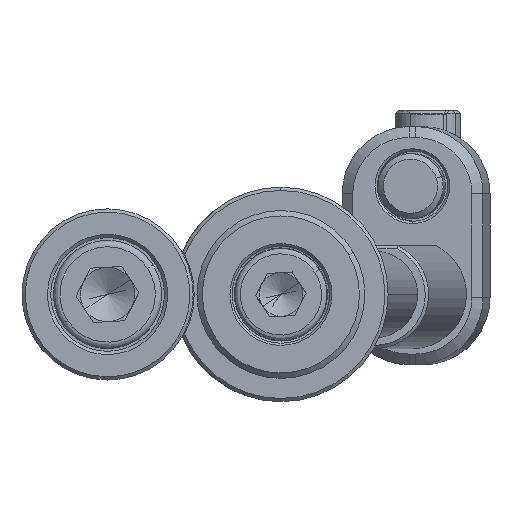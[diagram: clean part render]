
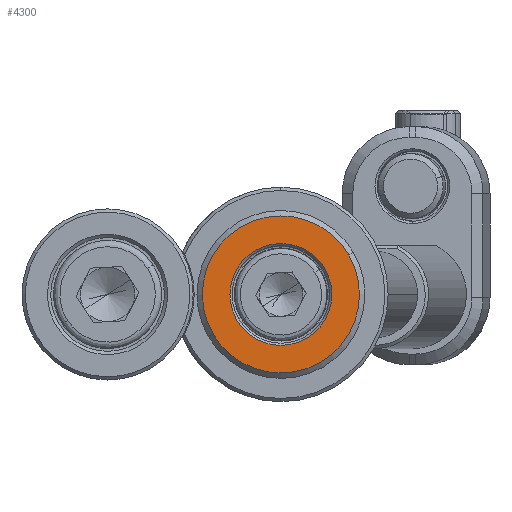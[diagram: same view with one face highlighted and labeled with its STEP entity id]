
A CAD part, front view. The second image highlights one B-rep face of the part: STEP entity #4300.
In plain terms, the highlighted planar face has unit normal (0, -1, 0).
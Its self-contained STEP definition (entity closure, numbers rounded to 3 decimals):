
#8 = CARTESIAN_POINT ( 'NONE',  ( 6.268, -4., 3.643 ) ) ;
#792 = EDGE_CURVE ( 'NONE', #4228, #7908, #3668, .T. ) ;
#1165 = CARTESIAN_POINT ( 'NONE',  ( 2.261, -4., -3.891 ) ) ;
#1298 = FACE_BOUND ( 'NONE', #14156, .T. ) ;
#1485 = DIRECTION ( 'NONE',  ( -0.865, 0., -0.503 ) ) ;
#1496 = EDGE_CURVE ( 'NONE', #2885, #8024, #12681, .T. ) ;
#2084 = ORIENTED_EDGE ( 'NONE', *, *, #1496, .T. ) ;
#2562 = AXIS2_PLACEMENT_3D ( 'NONE', #1165, #7892, #13432 ) ;
#2769 = CIRCLE ( 'NONE', #9692, 4.7 ) ;
#2885 = VERTEX_POINT ( 'NONE', #6121 ) ;
#3064 = DIRECTION ( 'NONE',  ( 0., -1., 0. ) ) ;
#3668 = CIRCLE ( 'NONE', #13345, 7.25 ) ;
#3791 = CARTESIAN_POINT ( 'NONE',  ( -4.063, -4., -2.362 ) ) ;
#3915 = EDGE_CURVE ( 'NONE', #8024, #2885, #2769, .T. ) ;
#4228 = VERTEX_POINT ( 'NONE', #8 ) ;
#4300 = ADVANCED_FACE ( 'NONE', ( #1298, #12176 ), #7828, .F. ) ;
#4670 = CARTESIAN_POINT ( 'NONE',  ( 0., -4., 0. ) ) ;
#4930 = EDGE_CURVE ( 'NONE', #7908, #4228, #12135, .T. ) ;
#5437 = AXIS2_PLACEMENT_3D ( 'NONE', #4670, #9281, #12330 ) ;
#5680 = ORIENTED_EDGE ( 'NONE', *, *, #4930, .T. ) ;
#6121 = CARTESIAN_POINT ( 'NONE',  ( 4.063, -4., 2.362 ) ) ;
#6494 = ORIENTED_EDGE ( 'NONE', *, *, #792, .T. ) ;
#7828 = PLANE ( 'NONE',  #2562 ) ;
#7892 = DIRECTION ( 'NONE',  ( 0., 1., 0. ) ) ;
#7908 = VERTEX_POINT ( 'NONE', #12255 ) ;
#8024 = VERTEX_POINT ( 'NONE', #3791 ) ;
#8313 = AXIS2_PLACEMENT_3D ( 'NONE', #12369, #10343, #1485 ) ;
#8448 = DIRECTION ( 'NONE',  ( -0.865, 0., -0.503 ) ) ;
#8517 = CARTESIAN_POINT ( 'NONE',  ( 0., -4., 0. ) ) ;
#8801 = DIRECTION ( 'NONE',  ( -0.865, 0., -0.503 ) ) ;
#9281 = DIRECTION ( 'NONE',  ( 0., -1., 0. ) ) ;
#9692 = AXIS2_PLACEMENT_3D ( 'NONE', #13332, #10910, #8801 ) ;
#10343 = DIRECTION ( 'NONE',  ( 0., 1., 0. ) ) ;
#10910 = DIRECTION ( 'NONE',  ( 0., 1., 0. ) ) ;
#12135 = CIRCLE ( 'NONE', #5437, 7.25 ) ;
#12152 = EDGE_LOOP ( 'NONE', ( #5680, #6494 ) ) ;
#12176 = FACE_OUTER_BOUND ( 'NONE', #12152, .T. ) ;
#12255 = CARTESIAN_POINT ( 'NONE',  ( -6.268, -4., -3.643 ) ) ;
#12330 = DIRECTION ( 'NONE',  ( -0.865, 0., -0.503 ) ) ;
#12369 = CARTESIAN_POINT ( 'NONE',  ( 0., -4., 0. ) ) ;
#12681 = CIRCLE ( 'NONE', #8313, 4.7 ) ;
#13332 = CARTESIAN_POINT ( 'NONE',  ( 0., -4., 0. ) ) ;
#13345 = AXIS2_PLACEMENT_3D ( 'NONE', #8517, #3064, #8448 ) ;
#13432 = DIRECTION ( 'NONE',  ( -0.865, 0., -0.503 ) ) ;
#13446 = ORIENTED_EDGE ( 'NONE', *, *, #3915, .T. ) ;
#14156 = EDGE_LOOP ( 'NONE', ( #2084, #13446 ) ) ;
